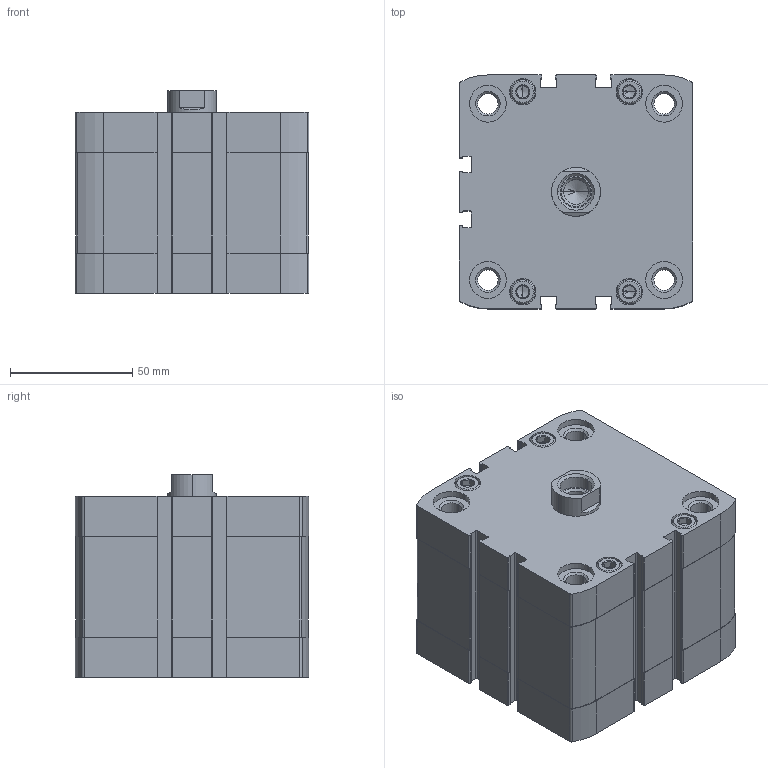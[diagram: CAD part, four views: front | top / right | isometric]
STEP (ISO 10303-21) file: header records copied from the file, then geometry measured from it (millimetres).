
FILE_DESCRIPTION (( 'STEP AP203' ), '1' );
FILE_NAME ('CCN80-20F.STEP', '2017-04-05T19:01:10', ( '' ), ( '' ), 'SwSTEP 2.0', 'SolidWorks 2016', '' );
FILE_SCHEMA (( 'CONFIG_CONTROL_DESIGN' ));
Length unit declared in the file: millimetre
Products named in the file (3): CCN-20---(Z); CCN-20_(KS); CCN80-20F
Assembly tree (2 placements, depth 2):
  CCN80-20F
    CCN-20---(Z)
    CCN-20_(KS)
Bounding box: 95.5 x 95.5 x 82.9 mm (x, y, z)
Volume: 536267.2 mm3; surface area: 102227.6 mm2
Topology: 2 solids, 2 shells, 487 faces, 1230 edges, 777 vertices
Faces by surface type: plane 227, cylinder 186, cone 74
Entity records: 15261 total; most frequent: CARTESIAN_POINT 3031, DIRECTION 2612, ORIENTED_EDGE 2424, EDGE_CURVE 1212, AXIS2_PLACEMENT_3D 974, VERTEX_POINT 777, LINE 664, VECTOR 664
